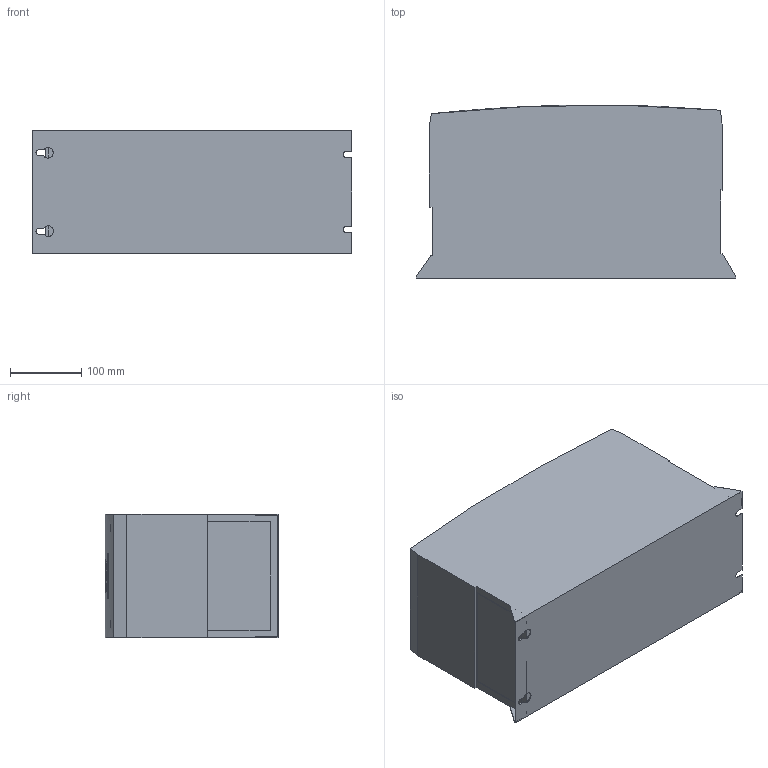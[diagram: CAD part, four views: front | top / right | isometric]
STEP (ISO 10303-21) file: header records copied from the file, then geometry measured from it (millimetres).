
FILE_DESCRIPTION (( 'STEP AP214' ), '1' );
FILE_NAME ('ECO S4 IP55.STEP', '2017-08-15T13:42:19', ( '' ), ( '' ), 'SwSTEP 2.0', 'SolidWorks 2017', '' );
FILE_SCHEMA (( 'AUTOMOTIVE_DESIGN' ));
Length unit declared in the file: millimetre
Products named in the file (1): ECO S4 IP55
Bounding box: 450 x 243.98 x 174 mm (x, y, z)
Volume: 17137992.3 mm3; surface area: 443324.2 mm2
Topology: 1 solids, 4 shells, 277 faces, 713 edges, 474 vertices
Faces by surface type: bspline 99, plane 98, cylinder 80
Entity records: 12333 total; most frequent: CARTESIAN_POINT 6472, ORIENTED_EDGE 1426, DIRECTION 813, EDGE_CURVE 713, VERTEX_POINT 474, VECTOR 315, LINE 315, EDGE_LOOP 311
